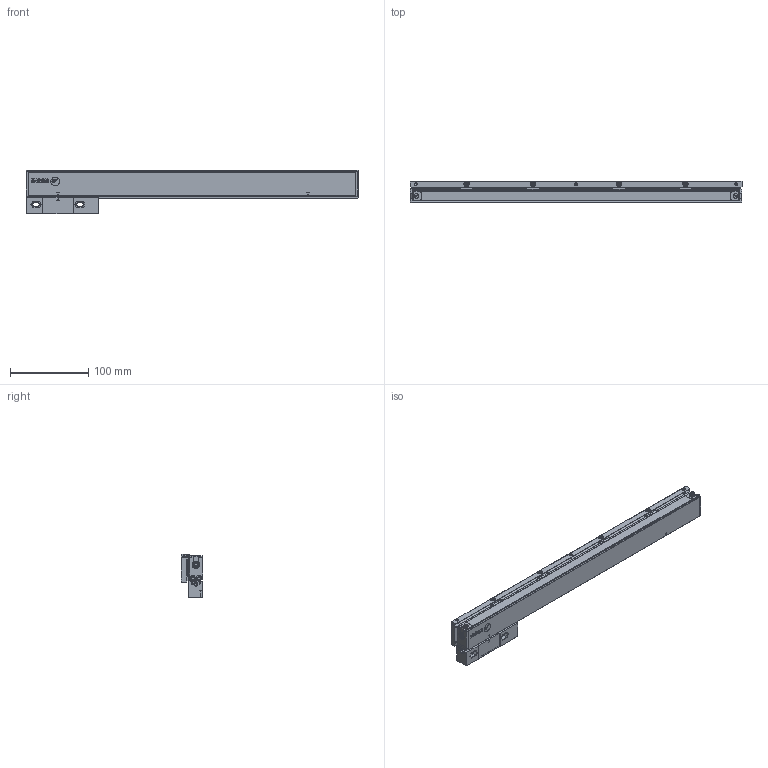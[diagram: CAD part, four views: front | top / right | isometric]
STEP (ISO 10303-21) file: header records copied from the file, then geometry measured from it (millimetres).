
FILE_DESCRIPTION(('Creo Elements/Direct Modeling STEP Export'),'2;1');
FILE_NAME('Regla SV2-320.stp','2015-07-07T12:45:19',(''),(''),'Creo Elements/Direct Modeling STEP processor for AP214 (Solid Model)','Creo Elements/Direct Modeling 18.1G 27-Feb-2015 (C) Parametric Technology GmbH','');
FILE_SCHEMA(('AUTOMOTIVE_DESIGN { 1 0 10303 214 1 1 1 1 }'));
Length unit declared in the file: millimetre
Products named in the file (4): SOPORTE_SV2; REGLA_SV2-320; CABEZA_RANURADA_REGLA_SV2; REGLA_SV2-320mm
Assembly tree (3 placements, depth 2):
  REGLA_SV2-320mm
    CABEZA_RANURADA_REGLA_SV2
    REGLA_SV2-320
    SOPORTE_SV2
Bounding box: 425 x 28 x 56.2 mm (x, y, z)
Volume: 250426.8 mm3; surface area: 133111.8 mm2
Topology: 2 solids, 21 shells, 1809 faces, 4973 edges, 3227 vertices
Faces by surface type: plane 793, cylinder 698, cone 182, bspline 98, torus 26, sphere 12
Entity records: 74022 total; most frequent: CARTESIAN_POINT 22134, ORIENTED_EDGE 9902, DIRECTION 8289, EDGE_CURVE 4943, VERTEX_POINT 3227, AXIS2_PLACEMENT_3D 2826, VECTOR 2637, LINE 2637
